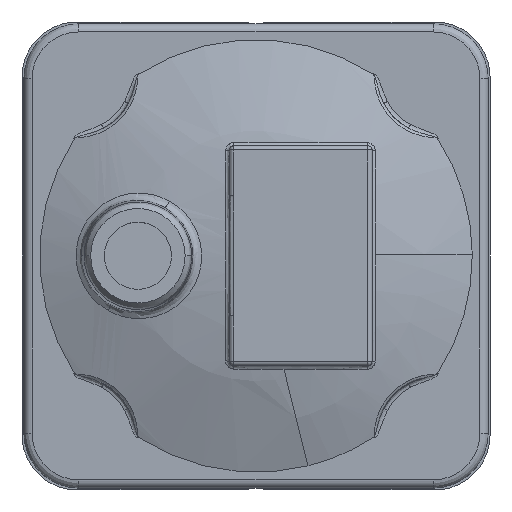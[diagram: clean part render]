
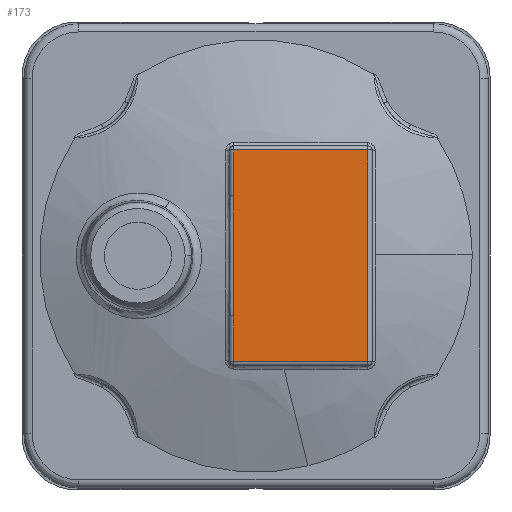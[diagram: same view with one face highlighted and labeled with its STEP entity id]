
A CAD part, top view. The second image highlights one B-rep face of the part: STEP entity #173.
In plain terms, the highlighted planar face has unit normal (0, 0, 1).
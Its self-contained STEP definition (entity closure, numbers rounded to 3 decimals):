
#173=ADVANCED_FACE('',(#1013),#1012,.T.);
#1012=PLANE('',#7081);
#1013=FACE_OUTER_BOUND('',#7082,.T.);
#7078=CARTESIAN_POINT('',(-8.981,-31.2,22.6));
#7079=DIRECTION('',(0.,0.,1.));
#7080=DIRECTION('',(1.,0.,0.));
#7081=AXIS2_PLACEMENT_3D('',#7078,#7079,#7080);
#7082=EDGE_LOOP('',(#20317,#20318,#20319,#20320,#20321,#20322));
#20317=ORIENTED_EDGE('',*,*,#21528,.T.);
#20318=ORIENTED_EDGE('',*,*,#21527,.T.);
#20319=ORIENTED_EDGE('',*,*,#21530,.T.);
#20320=ORIENTED_EDGE('',*,*,#21534,.T.);
#20321=ORIENTED_EDGE('',*,*,#21591,.T.);
#20322=ORIENTED_EDGE('',*,*,#21529,.T.);
#21527=EDGE_CURVE('',#22737,#22674,#22750,.T.);
#21528=EDGE_CURVE('',#22718,#22737,#22756,.T.);
#21529=EDGE_CURVE('',#22699,#22718,#22762,.T.);
#21530=EDGE_CURVE('',#22674,#22768,#22769,.T.);
#21534=EDGE_CURVE('',#22768,#22787,#22794,.T.);
#21591=EDGE_CURVE('',#22787,#22699,#23155,.T.);
#22674=VERTEX_POINT('',#27261);
#22699=VERTEX_POINT('',#27278);
#22718=VERTEX_POINT('',#27291);
#22737=VERTEX_POINT('',#27304);
#22750=LINE('',#27313,#27314);
#22756=LINE('',#27316,#27317);
#22762=LINE('',#27319,#27320);
#22768=VERTEX_POINT('',#27322);
#22769=LINE('',#27323,#27324);
#22787=VERTEX_POINT('',#27340);
#22794=(BOUNDED_CURVE() B_SPLINE_CURVE(3,(#27345,#27346,#27347,#27348,#27349,#27350,#27351,#27352,#27353,#27354),.UNSPECIFIED.,.F.,.F.) B_SPLINE_CURVE_WITH_KNOTS((4,2,2,2,4),(0.,0.007,0.015,0.022,0.029),.UNSPECIFIED.) CURVE() GEOMETRIC_REPRESENTATION_ITEM() RATIONAL_B_SPLINE_CURVE((1.,1.,1.,1.,1.,1.,1.,1.,1.,1.)) REPRESENTATION_ITEM('') );
#23155=LINE('',#27815,#27816);
#27261=CARTESIAN_POINT('',(-5.5,26.,22.6));
#27278=CARTESIAN_POINT('',(-5.5,-26.,22.6));
#27291=CARTESIAN_POINT('',(27.5,-26.,22.6));
#27304=CARTESIAN_POINT('',(27.5,26.,22.6));
#27313=CARTESIAN_POINT('',(27.5,26.,22.6));
#27314=VECTOR('',#27315,33.);
#27315=DIRECTION('',(-1.,0.,0.));
#27316=CARTESIAN_POINT('',(27.5,-26.,22.6));
#27317=VECTOR('',#27318,52.);
#27318=DIRECTION('',(0.,1.,0.));
#27319=CARTESIAN_POINT('',(-5.5,-26.,22.6));
#27320=VECTOR('',#27321,33.);
#27321=DIRECTION('',(1.,0.,0.));
#27322=CARTESIAN_POINT('',(-5.5,14.722,22.6));
#27323=CARTESIAN_POINT('',(-5.5,26.,22.6));
#27324=VECTOR('',#27325,11.278);
#27325=DIRECTION('',(0.,-1.,0.));
#27340=CARTESIAN_POINT('',(-5.5,-14.722,22.6));
#27345=CARTESIAN_POINT('',(-5.5,14.722,22.6));
#27346=CARTESIAN_POINT('',(-5.5,12.268,22.6));
#27347=CARTESIAN_POINT('',(-5.549,9.814,22.6));
#27348=CARTESIAN_POINT('',(-5.632,4.907,22.6));
#27349=CARTESIAN_POINT('',(-5.665,2.453,22.6));
#27350=CARTESIAN_POINT('',(-5.665,-2.455,22.6));
#27351=CARTESIAN_POINT('',(-5.632,-4.908,22.6));
#27352=CARTESIAN_POINT('',(-5.549,-9.815,22.6));
#27353=CARTESIAN_POINT('',(-5.5,-12.269,22.6));
#27354=CARTESIAN_POINT('',(-5.5,-14.722,22.6));
#27815=CARTESIAN_POINT('',(-5.5,-14.722,22.6));
#27816=VECTOR('',#27817,11.278);
#27817=DIRECTION('',(0.,-1.,0.));
